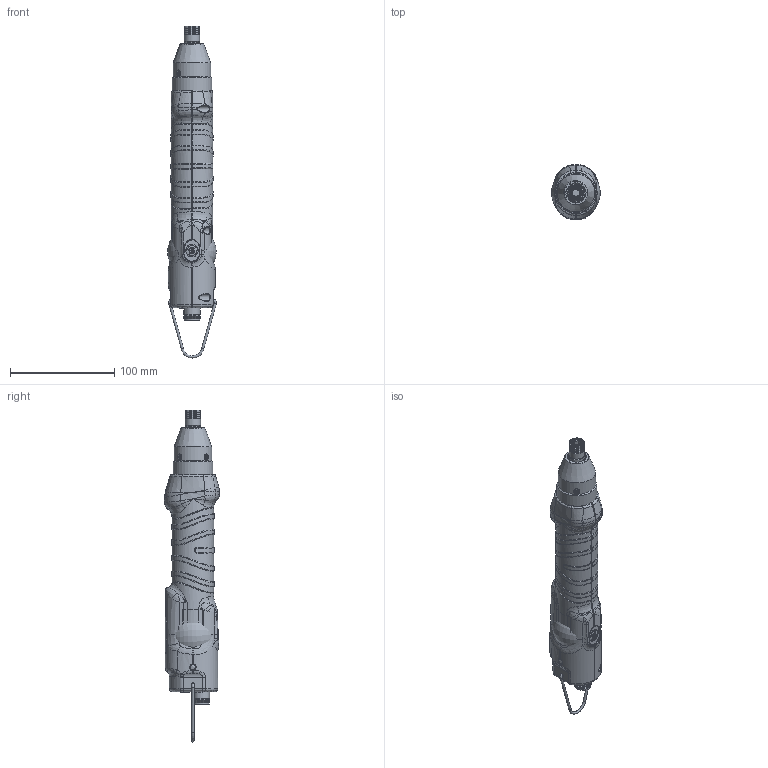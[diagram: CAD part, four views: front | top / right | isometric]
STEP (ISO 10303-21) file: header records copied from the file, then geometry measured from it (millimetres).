
FILE_DESCRIPTION (( 'STEP AP214' ), '1' );
FILE_NAME ('KDS SPINTA.STEP', '2025-02-24T13:35:16', ( '' ), ( '' ), 'SwSTEP 2.0', 'SolidWorks 2024', '' );
FILE_SCHEMA (( 'AUTOMOTIVE_DESIGN' ));
Length unit declared in the file: millimetre
Products named in the file (1): KDS SPINTA
Bounding box: 46.97 x 52.77 x 318.44 mm (x, y, z)
Surface area: 53758.6 mm2 (no closed solid volume)
Topology: 0 solids, 34 shells, 905 faces, 2887 edges, 1985 vertices
Faces by surface type: bspline 427, cylinder 204, plane 160, cone 88, torus 26
Full cylindrical faces by diameter (mm): 1 x10, 2.2 x2, 2.8 x3, 5.5 x3, 5.6 x1, 9.4 x1, 10 x1, 11.8 x1, 12 x1, 12.1 x1, 14.7 x5, 14.85 x2, 15 x1, 16 x1, 16.86 x1, 18 x1, 36 x1, 38 x1
Entity records: 75245 total; most frequent: CARTESIAN_POINT 45172, ORIENTED_EDGE 4748, DIRECTION 2885, EDGE_CURVE 2759, VERTEX_POINT 1956, B_SPLINE_CURVE_WITH_KNOTS 1356, AXIS2_PLACEMENT_3D 1103, EDGE_LOOP 1050
